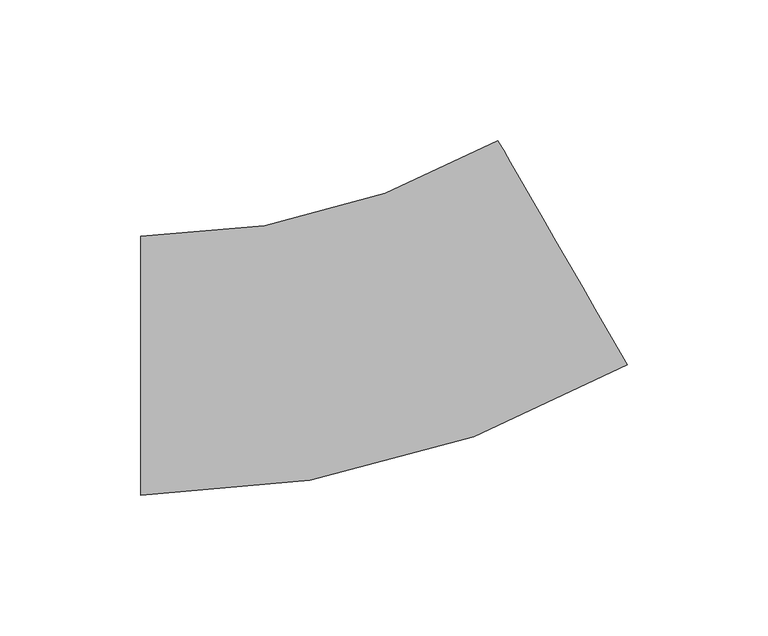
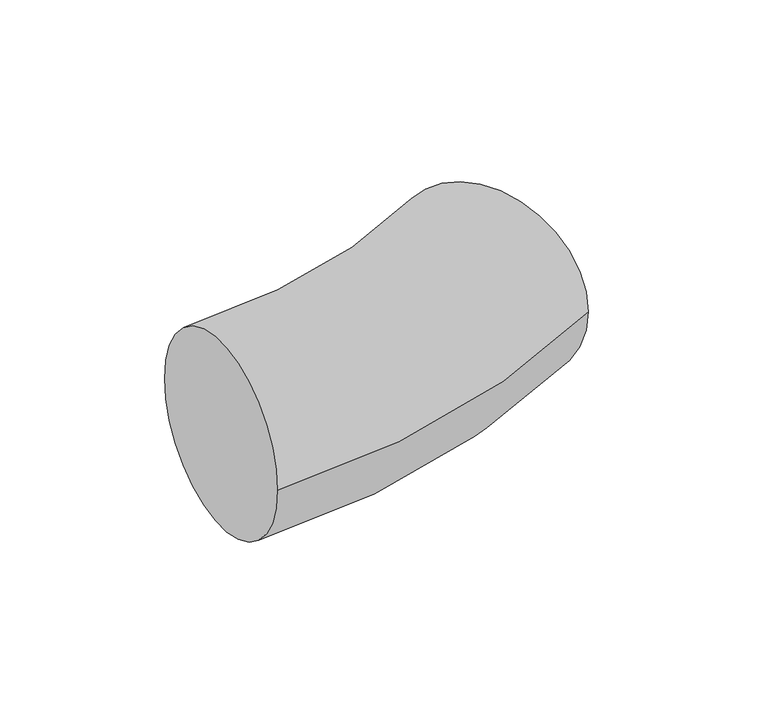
"""IFC4 building model written with IfcOpenShell, lengths in millimetres: duct segment geometry, NLRS_57_DUF_UN_Hybalans flexbend round_M&G : extract ø75 ø92 (red)."""

from ifc_helpers import new_model, si_unit, point, frame, origin, place, context, project, spatial, circle_curve, ellipse_curve, trimmed, source, transform, mapped, element, save
from ifc_brep_helpers import plane_surface, revolved_surface, advanced_brep


def duct_segment_35683ce1(model_context):
    return source(origin(), model_context, "Body", "AdvancedBrep", [
        advanced_brep(
        [(-80.3847577, -46.0, 0.0), (-80.3847577, 46.0, 0.0), (92.6152423, 0.3552103, 0.0), (46.6152423, 80.0295474, 0.0)],
        [
            (0, 1, circle_curve(frame((-80.3847577, 0.0, 0.0), z_axis=(-1.0, 0.0, 0.0), x_axis=(0.0, 1.0, 0.0)), 46.0)),
            (1, 0, circle_curve(frame((-80.3847577, 0.0, 0.0), z_axis=(-1.0, 0.0, 0.0), x_axis=(0.0, 1.0, 0.0)), 46.0)),
            (2, 3, circle_curve(frame((69.6152423, 40.1923789, 0.0), z_axis=(0.8660254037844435, 0.49999999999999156, 0.0), x_axis=(-0.49999999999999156, 0.8660254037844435, 0.0)), 46.0)),
            (3, 2, circle_curve(frame((69.6152423, 40.1923789, 0.0), z_axis=(0.8660254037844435, 0.49999999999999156, 0.0), x_axis=(-0.49999999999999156, 0.8660254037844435, 0.0)), 46.0)),
            (3, 1, circle_curve(frame((-80.3847577, 300.0, 0.0), z_axis=(0.0, 0.0, -1.0), x_axis=(0.0, -1.0, 0.0)), 254.0)),
            (0, 2, circle_curve(frame((-80.3847577, 300.0, 0.0), z_axis=(0.0, 0.0, 1.0), x_axis=(0.0, -1.0, 0.0)), 346.0)),
        ],
        [
            plane_surface(frame((-80.3847577, 0.0, 0.0), z_axis=(-1.0, 0.0, 0.0), x_axis=(0.0, 0.0, 1.0))),
            plane_surface(frame((69.6152423, 40.1923789, 0.0), z_axis=(0.8660254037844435, 0.4999999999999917, 0.0), x_axis=(0.0, 0.0, 1.0))),
            revolved_surface(trimmed(ellipse_curve(frame((-80.3847577, 0.0, 0.0), z_axis=(-1.0, 0.0, 0.0), x_axis=(0.0, 1.0, 0.0)), 46.0, 46.0), [point((-80.3847577, -46.0, 0.0))], [point((-80.3847577, 46.0, 0.0))], True, "CARTESIAN"), (-80.3847577, 300.0, 0.0), (0.0, 0.0, 1.0)),
            revolved_surface(trimmed(ellipse_curve(frame((-80.3847577, 0.0, 0.0), z_axis=(-1.0, 0.0, 0.0), x_axis=(0.0, 1.0, 0.0)), 46.0, 46.0), [point((-80.3847577, 46.0, 0.0))], [point((-80.3847577, -46.0, 0.0))], True, "CARTESIAN"), (-80.3847577, 300.0, 0.0), (0.0, 0.0, 1.0)),
        ],
        [
            (0, [[1, 2]]),
            (1, [[3, 4]]),
            (2, [[5, -1, 6, -4]]),
            (3, [[-6, -2, -5, -3]]),
        ],
    ),
    ])


if __name__ == "__main__":
    model = new_model("IFC4")
    model_context = context("Model", 3, world=origin())
    ifc_project = project(units=[si_unit("LENGTHUNIT", "METRE", prefix="MILLI")], contexts=[model_context])
    site = spatial("IfcSite", under=ifc_project)
    building = spatial("IfcBuilding", under=site)
    placement = place(None, origin())
    duct_segment_shape = duct_segment_35683ce1(model_context)
    element("IfcDuctSegment", 1, ObjectType="NLRS_57_DUF_UN_Hybalans flexbend round_M&G : extract ø75 ø92 (red)", at=placement, inside=building, context=model_context, shape_type="MappedRepresentation", body=[
        mapped(duct_segment_shape, transform((0.0, 0.0, 0.0), x_axis=(1.0, 0.0, 0.0), y_axis=(0.0, 1.0, 0.0), z_axis=(0.0, 0.0, 1.0))),
    ])
    save(model, "model.ifc")
